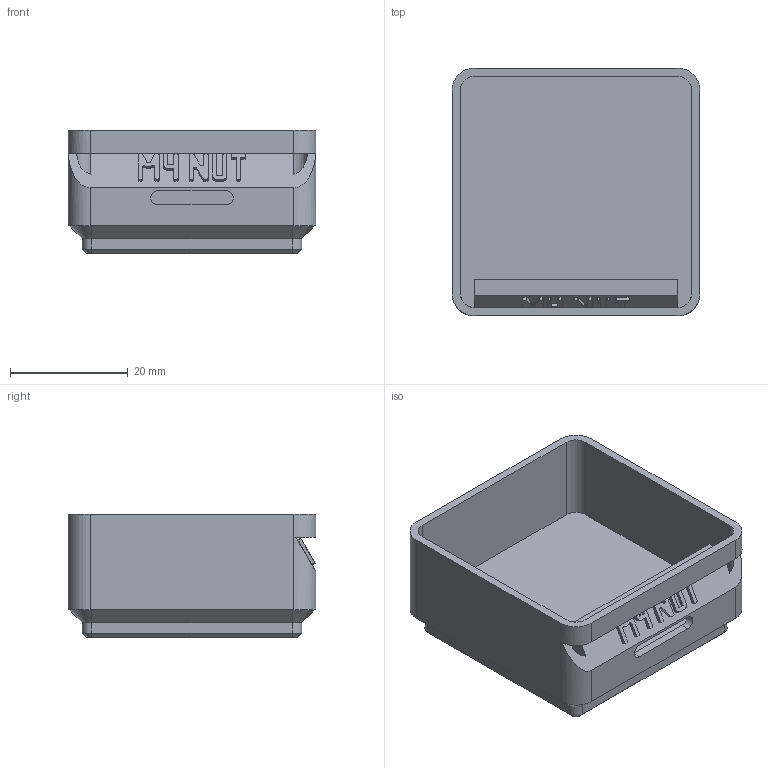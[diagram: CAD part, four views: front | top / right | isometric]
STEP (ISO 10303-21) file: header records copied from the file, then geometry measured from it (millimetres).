
FILE_DESCRIPTION(('Open CASCADE Model'),'2;1');
FILE_NAME('Open CASCADE Shape Model','2026-11-03T17:13:40',('Author'),( 'Open CASCADE'),'Open CASCADE STEP processor 8.0','build123d', 'Unknown');
FILE_SCHEMA(('AUTOMOTIVE_DESIGN { 1 0 10303 214 1 1 1 1 }'));
Length unit declared in the file: millimetre
Products named in the file (1): COMPOUND
Bounding box: 42 x 42 x 21 mm (x, y, z)
Volume: 12848.5 mm3; surface area: 9287.2 mm2
Topology: 1 solids, 1 shells, 428 faces, 1245 edges, 824 vertices
Faces by surface type: plane 406, cylinder 14, cone 8
Entity records: 29262 total; most frequent: CARTESIAN_POINT 5906, DIRECTION 3787, LINE 2813, VECTOR 2813, ORIENTED_EDGE 2490, PCURVE 2490, DEFINITIONAL_REPRESENTATION 2490, EDGE_CURVE 1245
